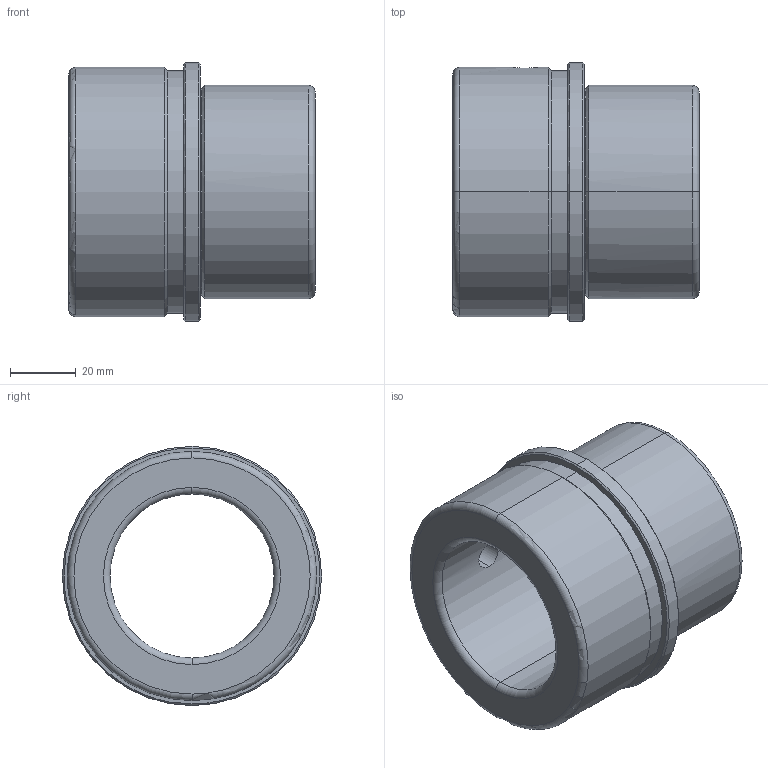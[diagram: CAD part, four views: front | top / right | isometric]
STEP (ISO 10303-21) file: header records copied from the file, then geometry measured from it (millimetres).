
FILE_DESCRIPTION(('CATIA V5 STEP Exchange'),'2;1');
FILE_NAME('C:\Users\Utente\Desktop\IO LAVORO\3D X SITO CF\X SITO\CF 641\CF 641 50 x 75.stp','2020-12-26T14:42:49+00:00',('none'),('none'),'CATIA Version 5 Release 20 GA (IN-10)','CATIA V5 STEP AP203','none');
FILE_SCHEMA(('CONFIG_CONTROL_DESIGN'));
Length unit declared in the file: millimetre
Products named in the file (1): CF 641 50 x 75
Bounding box: 75 x 79 x 79 mm (x, y, z)
Volume: 148861.9 mm3; surface area: 34701.4 mm2
Topology: 1 solids, 1 shells, 37 faces, 126 edges, 94 vertices
Faces by surface type: cylinder 14, cone 10, torus 8, plane 5
Entity records: 1664 total; most frequent: CARTESIAN_POINT 536, ORIENTED_EDGE 252, DIRECTION 178, EDGE_CURVE 126, AXIS2_PLACEMENT_3D 118, VERTEX_POINT 94, CIRCLE 80, EDGE_LOOP 44
